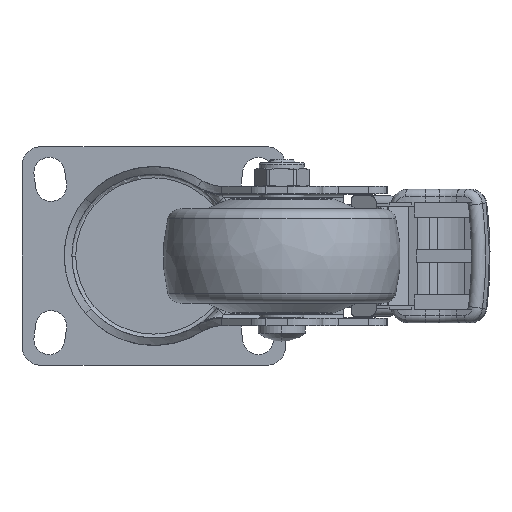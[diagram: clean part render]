
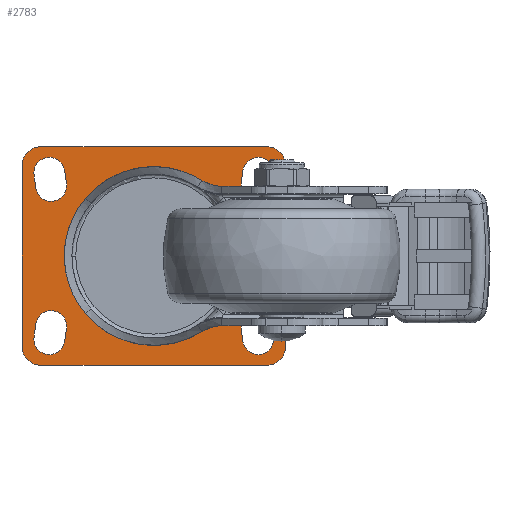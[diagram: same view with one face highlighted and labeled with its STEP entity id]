
A CAD part, front view. The second image highlights one B-rep face of the part: STEP entity #2783.
In plain terms, the highlighted planar face has unit normal (0, -1, 0).
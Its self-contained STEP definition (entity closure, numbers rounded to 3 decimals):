
#396=CARTESIAN_POINT('',(0.,-2.5,0.));
#397=DIRECTION('',(0.,1.,0.));
#398=DIRECTION('',(-1.,0.,0.));
#399=AXIS2_PLACEMENT_3D('',#396,#397,#398);
#406=CARTESIAN_POINT('',(0.,-2.5,0.));
#407=DIRECTION('',(0.,-1.,0.));
#408=DIRECTION('',(-1.,0.,0.));
#409=AXIS2_PLACEMENT_3D('',#406,#407,#408);
#411=DIRECTION('',(0.141,0.,0.99));
#412=VECTOR('',#411,3.536);
#413=CARTESIAN_POINT('',(-31.809,-2.5,-21.52));
#414=LINE('',#413,#412);
#415=CARTESIAN_POINT('',(-27.75,-2.5,-22.1));
#416=DIRECTION('',(0.,1.,0.));
#417=DIRECTION('',(0.99,0.,-0.141));
#418=AXIS2_PLACEMENT_3D('',#415,#416,#417);
#420=DIRECTION('',(-0.141,0.,-0.99));
#421=VECTOR('',#420,3.536);
#422=CARTESIAN_POINT('',(-23.191,-2.5,-19.18));
#423=LINE('',#422,#421);
#424=CARTESIAN_POINT('',(-27.25,-2.5,-18.6));
#425=DIRECTION('',(0.,1.,0.));
#426=DIRECTION('',(-0.99,0.,0.141));
#427=AXIS2_PLACEMENT_3D('',#424,#425,#426);
#429=CARTESIAN_POINT('',(27.75,-2.5,-22.1));
#430=DIRECTION('',(0.,1.,0.));
#431=DIRECTION('',(0.99,0.,0.141));
#432=AXIS2_PLACEMENT_3D('',#429,#430,#431);
#434=DIRECTION('',(0.141,0.,-0.99));
#435=VECTOR('',#434,3.536);
#436=CARTESIAN_POINT('',(31.309,-2.5,-18.02));
#437=LINE('',#436,#435);
#438=CARTESIAN_POINT('',(27.25,-2.5,-18.6));
#439=DIRECTION('',(0.,1.,0.));
#440=DIRECTION('',(-0.99,0.,-0.141));
#441=AXIS2_PLACEMENT_3D('',#438,#439,#440);
#443=DIRECTION('',(-0.141,0.,0.99));
#444=VECTOR('',#443,3.536);
#445=CARTESIAN_POINT('',(23.691,-2.5,-22.68));
#446=LINE('',#445,#444);
#447=DIRECTION('',(-0.141,0.,-0.99));
#448=VECTOR('',#447,3.536);
#449=CARTESIAN_POINT('',(31.809,-2.5,21.52));
#450=LINE('',#449,#448);
#451=CARTESIAN_POINT('',(27.75,-2.5,22.1));
#452=DIRECTION('',(0.,1.,0.));
#453=DIRECTION('',(-0.99,0.,0.141));
#454=AXIS2_PLACEMENT_3D('',#451,#452,#453);
#456=DIRECTION('',(0.141,0.,0.99));
#457=VECTOR('',#456,3.536);
#458=CARTESIAN_POINT('',(23.191,-2.5,19.18));
#459=LINE('',#458,#457);
#460=CARTESIAN_POINT('',(27.25,-2.5,18.6));
#461=DIRECTION('',(0.,1.,0.));
#462=DIRECTION('',(0.99,0.,-0.141));
#463=AXIS2_PLACEMENT_3D('',#460,#461,#462);
#465=CARTESIAN_POINT('',(-27.75,-2.5,22.1));
#466=DIRECTION('',(0.,1.,0.));
#467=DIRECTION('',(-0.99,0.,-0.141));
#468=AXIS2_PLACEMENT_3D('',#465,#466,#467);
#470=DIRECTION('',(-0.141,0.,0.99));
#471=VECTOR('',#470,3.536);
#472=CARTESIAN_POINT('',(-31.309,-2.5,18.02));
#473=LINE('',#472,#471);
#474=CARTESIAN_POINT('',(-27.25,-2.5,18.6));
#475=DIRECTION('',(0.,1.,0.));
#476=DIRECTION('',(0.99,0.,0.141));
#477=AXIS2_PLACEMENT_3D('',#474,#475,#476);
#479=DIRECTION('',(0.141,0.,-0.99));
#480=VECTOR('',#479,3.536);
#481=CARTESIAN_POINT('',(-23.691,-2.5,22.68));
#482=LINE('',#481,#480);
#483=CARTESIAN_POINT('',(30.,-2.5,24.));
#484=DIRECTION('',(0.,-1.,0.));
#485=DIRECTION('',(1.,0.,0.));
#486=AXIS2_PLACEMENT_3D('',#483,#484,#485);
#488=DIRECTION('',(0.,0.,1.));
#489=VECTOR('',#488,48.);
#490=CARTESIAN_POINT('',(35.,-2.5,-24.));
#491=LINE('',#490,#489);
#492=CARTESIAN_POINT('',(30.,-2.5,-24.));
#493=DIRECTION('',(0.,-1.,0.));
#494=DIRECTION('',(0.,0.,-1.));
#495=AXIS2_PLACEMENT_3D('',#492,#493,#494);
#497=DIRECTION('',(1.,0.,0.));
#498=VECTOR('',#497,60.);
#499=CARTESIAN_POINT('',(-30.,-2.5,-29.));
#500=LINE('',#499,#498);
#501=CARTESIAN_POINT('',(-30.,-2.5,-24.));
#502=DIRECTION('',(0.,-1.,0.));
#503=DIRECTION('',(-1.,0.,0.));
#504=AXIS2_PLACEMENT_3D('',#501,#502,#503);
#506=DIRECTION('',(0.,0.,-1.));
#507=VECTOR('',#506,48.);
#508=CARTESIAN_POINT('',(-35.,-2.5,24.));
#509=LINE('',#508,#507);
#510=CARTESIAN_POINT('',(-30.,-2.5,24.));
#511=DIRECTION('',(0.,-1.,0.));
#512=DIRECTION('',(0.,0.,1.));
#513=AXIS2_PLACEMENT_3D('',#510,#511,#512);
#515=DIRECTION('',(-1.,0.,0.));
#516=VECTOR('',#515,60.);
#517=CARTESIAN_POINT('',(30.,-2.5,29.));
#518=LINE('',#517,#516);
#1898=CARTESIAN_POINT('',(-19.971,-2.5,0.));
#1900=VERTEX_POINT('',#1898);
#1912=CARTESIAN_POINT('',(19.971,-2.5,0.));
#1914=VERTEX_POINT('',#1912);
#1958=CARTESIAN_POINT('',(-31.809,-2.5,-21.52));
#1959=CARTESIAN_POINT('',(-31.309,-2.5,-18.02));
#1960=VERTEX_POINT('',#1958);
#1961=VERTEX_POINT('',#1959);
#1962=CARTESIAN_POINT('',(-23.191,-2.5,-19.18));
#1963=VERTEX_POINT('',#1962);
#1964=CARTESIAN_POINT('',(-23.691,-2.5,-22.68));
#1965=VERTEX_POINT('',#1964);
#1966=CARTESIAN_POINT('',(31.809,-2.5,-21.52));
#1967=CARTESIAN_POINT('',(23.691,-2.5,-22.68));
#1968=VERTEX_POINT('',#1966);
#1969=VERTEX_POINT('',#1967);
#1970=CARTESIAN_POINT('',(23.191,-2.5,-19.18));
#1971=VERTEX_POINT('',#1970);
#1972=CARTESIAN_POINT('',(31.309,-2.5,-18.02));
#1973=VERTEX_POINT('',#1972);
#1974=CARTESIAN_POINT('',(31.809,-2.5,21.52));
#1975=CARTESIAN_POINT('',(31.309,-2.5,18.02));
#1976=VERTEX_POINT('',#1974);
#1977=VERTEX_POINT('',#1975);
#1978=CARTESIAN_POINT('',(23.191,-2.5,19.18));
#1979=VERTEX_POINT('',#1978);
#1980=CARTESIAN_POINT('',(23.691,-2.5,22.68));
#1981=VERTEX_POINT('',#1980);
#1982=CARTESIAN_POINT('',(-31.809,-2.5,21.52));
#1983=CARTESIAN_POINT('',(-23.691,-2.5,22.68));
#1984=VERTEX_POINT('',#1982);
#1985=VERTEX_POINT('',#1983);
#1986=CARTESIAN_POINT('',(-23.191,-2.5,19.18));
#1987=VERTEX_POINT('',#1986);
#1988=CARTESIAN_POINT('',(-31.309,-2.5,18.02));
#1989=VERTEX_POINT('',#1988);
#1994=CARTESIAN_POINT('',(35.,-2.5,24.));
#1995=VERTEX_POINT('',#1994);
#1996=CARTESIAN_POINT('',(30.,-2.5,29.));
#1997=VERTEX_POINT('',#1996);
#2002=CARTESIAN_POINT('',(-30.,-2.5,29.));
#2003=VERTEX_POINT('',#2002);
#2004=CARTESIAN_POINT('',(-35.,-2.5,24.));
#2005=VERTEX_POINT('',#2004);
#2010=CARTESIAN_POINT('',(-35.,-2.5,-24.));
#2011=VERTEX_POINT('',#2010);
#2012=CARTESIAN_POINT('',(-30.,-2.5,-29.));
#2013=VERTEX_POINT('',#2012);
#2018=CARTESIAN_POINT('',(30.,-2.5,-29.));
#2019=VERTEX_POINT('',#2018);
#2020=CARTESIAN_POINT('',(35.,-2.5,-24.));
#2021=VERTEX_POINT('',#2020);
#2716=CARTESIAN_POINT('',(0.,-2.5,0.));
#2717=DIRECTION('',(0.,-1.,0.));
#2718=DIRECTION('',(-1.,0.,0.));
#2719=AXIS2_PLACEMENT_3D('',#2716,#2717,#2718);
#2720=PLANE('',#2719);
#2722=ORIENTED_EDGE('',*,*,#2721,.F.);
#2724=ORIENTED_EDGE('',*,*,#2723,.F.);
#2726=ORIENTED_EDGE('',*,*,#2725,.F.);
#2728=ORIENTED_EDGE('',*,*,#2727,.F.);
#2730=ORIENTED_EDGE('',*,*,#2729,.F.);
#2732=ORIENTED_EDGE('',*,*,#2731,.F.);
#2734=ORIENTED_EDGE('',*,*,#2733,.F.);
#2736=ORIENTED_EDGE('',*,*,#2735,.F.);
#2737=EDGE_LOOP('',(#2722,#2724,#2726,#2728,#2730,#2732,#2734,#2736));
#2738=FACE_OUTER_BOUND('',#2737,.F.);
#2740=ORIENTED_EDGE('',*,*,#2739,.F.);
#2742=ORIENTED_EDGE('',*,*,#2741,.F.);
#2744=ORIENTED_EDGE('',*,*,#2743,.F.);
#2746=ORIENTED_EDGE('',*,*,#2745,.F.);
#2747=EDGE_LOOP('',(#2740,#2742,#2744,#2746));
#2748=FACE_BOUND('',#2747,.F.);
#2750=ORIENTED_EDGE('',*,*,#2749,.F.);
#2752=ORIENTED_EDGE('',*,*,#2751,.F.);
#2754=ORIENTED_EDGE('',*,*,#2753,.F.);
#2756=ORIENTED_EDGE('',*,*,#2755,.F.);
#2757=EDGE_LOOP('',(#2750,#2752,#2754,#2756));
#2758=FACE_BOUND('',#2757,.F.);
#2760=ORIENTED_EDGE('',*,*,#2759,.F.);
#2762=ORIENTED_EDGE('',*,*,#2761,.F.);
#2764=ORIENTED_EDGE('',*,*,#2763,.F.);
#2766=ORIENTED_EDGE('',*,*,#2765,.F.);
#2767=EDGE_LOOP('',(#2760,#2762,#2764,#2766));
#2768=FACE_BOUND('',#2767,.F.);
#2770=ORIENTED_EDGE('',*,*,#2769,.F.);
#2772=ORIENTED_EDGE('',*,*,#2771,.F.);
#2774=ORIENTED_EDGE('',*,*,#2773,.F.);
#2776=ORIENTED_EDGE('',*,*,#2775,.F.);
#2777=EDGE_LOOP('',(#2770,#2772,#2774,#2776));
#2778=FACE_BOUND('',#2777,.F.);
#2779=ORIENTED_EDGE('',*,*,#2695,.F.);
#2780=ORIENTED_EDGE('',*,*,#2711,.T.);
#2781=EDGE_LOOP('',(#2779,#2780));
#2782=FACE_BOUND('',#2781,.F.);
#400=CIRCLE('',#399,19.971);
#410=CIRCLE('',#409,19.971);
#419=CIRCLE('',#418,4.1);
#428=CIRCLE('',#427,4.1);
#433=CIRCLE('',#432,4.1);
#442=CIRCLE('',#441,4.1);
#455=CIRCLE('',#454,4.1);
#464=CIRCLE('',#463,4.1);
#469=CIRCLE('',#468,4.1);
#478=CIRCLE('',#477,4.1);
#487=CIRCLE('',#486,5.);
#496=CIRCLE('',#495,5.);
#505=CIRCLE('',#504,5.);
#514=CIRCLE('',#513,5.);
#2695=EDGE_CURVE('',#1900,#1914,#400,.T.);
#2711=EDGE_CURVE('',#1900,#1914,#410,.T.);
#2721=EDGE_CURVE('',#1995,#1997,#487,.T.);
#2723=EDGE_CURVE('',#2021,#1995,#491,.T.);
#2725=EDGE_CURVE('',#2019,#2021,#496,.T.);
#2727=EDGE_CURVE('',#2013,#2019,#500,.T.);
#2729=EDGE_CURVE('',#2011,#2013,#505,.T.);
#2731=EDGE_CURVE('',#2005,#2011,#509,.T.);
#2733=EDGE_CURVE('',#2003,#2005,#514,.T.);
#2735=EDGE_CURVE('',#1997,#2003,#518,.T.);
#2739=EDGE_CURVE('',#1960,#1961,#414,.T.);
#2741=EDGE_CURVE('',#1965,#1960,#419,.T.);
#2743=EDGE_CURVE('',#1963,#1965,#423,.T.);
#2745=EDGE_CURVE('',#1961,#1963,#428,.T.);
#2749=EDGE_CURVE('',#1968,#1969,#433,.T.);
#2751=EDGE_CURVE('',#1973,#1968,#437,.T.);
#2753=EDGE_CURVE('',#1971,#1973,#442,.T.);
#2755=EDGE_CURVE('',#1969,#1971,#446,.T.);
#2759=EDGE_CURVE('',#1976,#1977,#450,.T.);
#2761=EDGE_CURVE('',#1981,#1976,#455,.T.);
#2763=EDGE_CURVE('',#1979,#1981,#459,.T.);
#2765=EDGE_CURVE('',#1977,#1979,#464,.T.);
#2769=EDGE_CURVE('',#1984,#1985,#469,.T.);
#2771=EDGE_CURVE('',#1989,#1984,#473,.T.);
#2773=EDGE_CURVE('',#1987,#1989,#478,.T.);
#2775=EDGE_CURVE('',#1985,#1987,#482,.T.);
#2783=ADVANCED_FACE('',(#2738,#2748,#2758,#2768,#2778,#2782),#2720,.T.);
